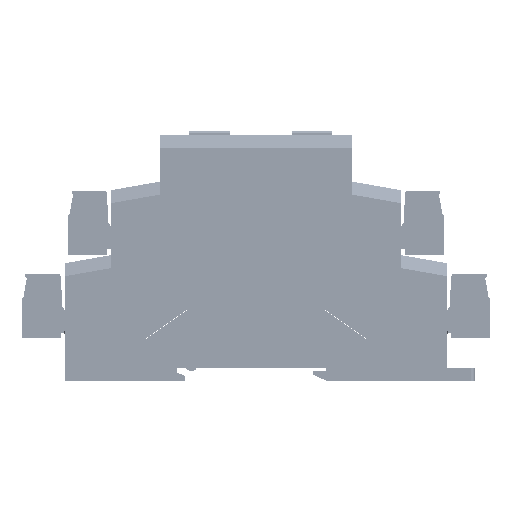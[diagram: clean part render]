
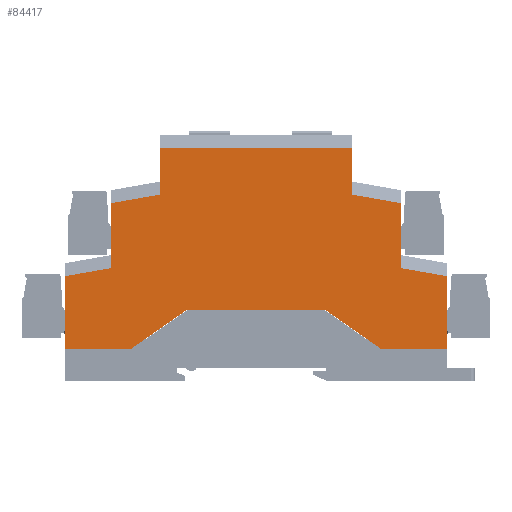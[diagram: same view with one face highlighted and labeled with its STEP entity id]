
A CAD part, left-side view. The second image highlights one B-rep face of the part: STEP entity #84417.
In plain terms, the highlighted planar face has unit normal (-1, 0, 0).
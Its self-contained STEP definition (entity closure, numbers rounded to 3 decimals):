
#867 = VERTEX_POINT ( 'NONE', #205247 ) ;
#5867 = VERTEX_POINT ( 'NONE', #202426 ) ;
#6200 = VECTOR ( 'NONE', #255929, 1000. ) ;
#6600 = LINE ( 'NONE', #42535, #129898 ) ;
#7434 = VECTOR ( 'NONE', #222202, 1000. ) ;
#8459 = ORIENTED_EDGE ( 'NONE', *, *, #105692, .F. ) ;
#9944 = DIRECTION ( 'NONE',  ( 0., 0., -1. ) ) ;
#10745 = EDGE_CURVE ( 'NONE', #127834, #14071, #117070, .T. ) ;
#13979 = VERTEX_POINT ( 'NONE', #227596 ) ;
#14071 = VERTEX_POINT ( 'NONE', #136743 ) ;
#15974 = DIRECTION ( 'NONE',  ( 0., 0.985, 0.174 ) ) ;
#16862 = CARTESIAN_POINT ( 'NONE',  ( 0., 10.85, 19.014 ) ) ;
#21180 = ORIENTED_EDGE ( 'NONE', *, *, #311036, .T. ) ;
#21822 = ORIENTED_EDGE ( 'NONE', *, *, #356415, .F. ) ;
#24146 = CARTESIAN_POINT ( 'NONE',  ( 0., 89.179, 17.192 ) ) ;
#27953 = CARTESIAN_POINT ( 'NONE',  ( 0., 0., 0. ) ) ;
#28605 = CARTESIAN_POINT ( 'NONE',  ( 0., 89.7, 0. ) ) ;
#36361 = LINE ( 'NONE', #180447, #334787 ) ;
#40754 = VECTOR ( 'NONE', #106786, 1000. ) ;
#42535 = CARTESIAN_POINT ( 'NONE',  ( 0., 11.371, 19.106 ) ) ;
#43926 = EDGE_CURVE ( 'NONE', #184956, #867, #196900, .T. ) ;
#49330 = VERTEX_POINT ( 'NONE', #28605 ) ;
#51432 = CARTESIAN_POINT ( 'NONE',  ( 0., 0., 20.147 ) ) ;
#56244 = LINE ( 'NONE', #70511, #318818 ) ;
#56449 = VERTEX_POINT ( 'NONE', #130371 ) ;
#56840 = CARTESIAN_POINT ( 'NONE',  ( 0., 74.243, 0. ) ) ;
#57742 = LINE ( 'NONE', #293169, #6200 ) ;
#61211 = LINE ( 'NONE', #27953, #318880 ) ;
#65774 = ORIENTED_EDGE ( 'NONE', *, *, #196801, .T. ) ;
#70511 = CARTESIAN_POINT ( 'NONE',  ( 0., 78.329, 34.318 ) ) ;
#73134 = EDGE_CURVE ( 'NONE', #426107, #5867, #404962, .T. ) ;
#84417 = ADVANCED_FACE ( 'NONE', ( #274160 ), #189088, .T. ) ;
#86960 = LINE ( 'NONE', #24146, #426550 ) ;
#88527 = DIRECTION ( 'NONE',  ( -1., 0., 0. ) ) ;
#96948 = VECTOR ( 'NONE', #347633, 1000. ) ;
#98147 = LINE ( 'NONE', #282134, #262875 ) ;
#100534 = LINE ( 'NONE', #296501, #357752 ) ;
#101676 = ORIENTED_EDGE ( 'NONE', *, *, #330104, .T. ) ;
#105692 = EDGE_CURVE ( 'NONE', #127834, #222991, #307709, .T. ) ;
#106786 = DIRECTION ( 'NONE',  ( 0., 0.819, 0.574 ) ) ;
#108831 = ORIENTED_EDGE ( 'NONE', *, *, #10745, .T. ) ;
#109628 = CARTESIAN_POINT ( 'NONE',  ( 0., 28.525, 9.15 ) ) ;
#112730 = VERTEX_POINT ( 'NONE', #325869 ) ;
#114282 = DIRECTION ( 'NONE',  ( 0., 1., 0. ) ) ;
#117070 = LINE ( 'NONE', #308019, #400374 ) ;
#117117 = EDGE_CURVE ( 'NONE', #344646, #419325, #128198, .T. ) ;
#118415 = ORIENTED_EDGE ( 'NONE', *, *, #43926, .F. ) ;
#119822 = CARTESIAN_POINT ( 'NONE',  ( 0., 15.457, 0. ) ) ;
#122136 = DIRECTION ( 'NONE',  ( 0., 0., -1. ) ) ;
#125438 = VERTEX_POINT ( 'NONE', #357227 ) ;
#127834 = VERTEX_POINT ( 'NONE', #354038 ) ;
#128198 = LINE ( 'NONE', #109628, #40754 ) ;
#129898 = VECTOR ( 'NONE', #373257, 1000. ) ;
#130371 = CARTESIAN_POINT ( 'NONE',  ( 0., 78.85, 19.014 ) ) ;
#132352 = DIRECTION ( 'NONE',  ( 0., 0.985, -0.174 ) ) ;
#136126 = EDGE_CURVE ( 'NONE', #125438, #49330, #36361, .T. ) ;
#136743 = CARTESIAN_POINT ( 'NONE',  ( 0., 22.35, 36.254 ) ) ;
#142310 = ORIENTED_EDGE ( 'NONE', *, *, #206053, .F. ) ;
#148001 = EDGE_CURVE ( 'NONE', #867, #344646, #61211, .T. ) ;
#180447 = CARTESIAN_POINT ( 'NONE',  ( 0., 74.243, 0. ) ) ;
#184956 = VERTEX_POINT ( 'NONE', #426686 ) ;
#189088 = PLANE ( 'NONE',  #309990 ) ;
#191120 = VERTEX_POINT ( 'NONE', #387326 ) ;
#191559 = ORIENTED_EDGE ( 'NONE', *, *, #73134, .F. ) ;
#193274 = DIRECTION ( 'NONE',  ( 0., 1., 0. ) ) ;
#196801 = EDGE_CURVE ( 'NONE', #426107, #112730, #56244, .T. ) ;
#196900 = LINE ( 'NONE', #51432, #336172 ) ;
#202426 = CARTESIAN_POINT ( 'NONE',  ( 0., 67.35, 47.1 ) ) ;
#205247 = CARTESIAN_POINT ( 'NONE',  ( 0., 0., 0. ) ) ;
#205333 = LINE ( 'NONE', #373710, #426620 ) ;
#206053 = EDGE_CURVE ( 'NONE', #382953, #14071, #205333, .T. ) ;
#207902 = LINE ( 'NONE', #56840, #7434 ) ;
#209811 = VECTOR ( 'NONE', #122136, 1000. ) ;
#214853 = ORIENTED_EDGE ( 'NONE', *, *, #117117, .F. ) ;
#221799 = DIRECTION ( 'NONE',  ( 0., 0., 1. ) ) ;
#222202 = DIRECTION ( 'NONE',  ( 0., 0.819, -0.574 ) ) ;
#222991 = VERTEX_POINT ( 'NONE', #16862 ) ;
#226343 = ORIENTED_EDGE ( 'NONE', *, *, #136126, .F. ) ;
#227596 = CARTESIAN_POINT ( 'NONE',  ( 0., 61.175, 9.15 ) ) ;
#228890 = CARTESIAN_POINT ( 'NONE',  ( 0., 22.35, 47.1 ) ) ;
#243420 = ORIENTED_EDGE ( 'NONE', *, *, #339889, .T. ) ;
#252443 = DIRECTION ( 'NONE',  ( 0., 0., 1. ) ) ;
#253296 = EDGE_CURVE ( 'NONE', #49330, #191120, #100534, .T. ) ;
#255929 = DIRECTION ( 'NONE',  ( 0., 1., 0. ) ) ;
#262875 = VECTOR ( 'NONE', #221799, 1000. ) ;
#274160 = FACE_OUTER_BOUND ( 'NONE', #354969, .T. ) ;
#282134 = CARTESIAN_POINT ( 'NONE',  ( 0., 78.85, 22.06 ) ) ;
#293169 = CARTESIAN_POINT ( 'NONE',  ( 0., 61.175, 9.15 ) ) ;
#296501 = CARTESIAN_POINT ( 'NONE',  ( 0., 89.7, 0. ) ) ;
#299157 = ORIENTED_EDGE ( 'NONE', *, *, #376039, .F. ) ;
#305945 = EDGE_CURVE ( 'NONE', #56449, #112730, #98147, .T. ) ;
#307709 = LINE ( 'NONE', #414266, #209811 ) ;
#308019 = CARTESIAN_POINT ( 'NONE',  ( 0., 22.871, 36.346 ) ) ;
#309990 = AXIS2_PLACEMENT_3D ( 'NONE', #386175, #88527, #252443 ) ;
#311036 = EDGE_CURVE ( 'NONE', #56449, #191120, #86960, .T. ) ;
#315212 = CARTESIAN_POINT ( 'NONE',  ( 0., 67.35, 36.254 ) ) ;
#318818 = VECTOR ( 'NONE', #132352, 1000. ) ;
#318880 = VECTOR ( 'NONE', #193274, 1000. ) ;
#325869 = CARTESIAN_POINT ( 'NONE',  ( 0., 78.85, 34.226 ) ) ;
#330104 = EDGE_CURVE ( 'NONE', #382953, #5867, #395339, .T. ) ;
#334787 = VECTOR ( 'NONE', #114282, 1000. ) ;
#336172 = VECTOR ( 'NONE', #382199, 1000. ) ;
#339889 = EDGE_CURVE ( 'NONE', #184956, #222991, #6600, .T. ) ;
#344450 = CARTESIAN_POINT ( 'NONE',  ( 0., 28.525, 9.15 ) ) ;
#344646 = VERTEX_POINT ( 'NONE', #119822 ) ;
#347440 = CARTESIAN_POINT ( 'NONE',  ( 0., 67.35, 39.3 ) ) ;
#347633 = DIRECTION ( 'NONE',  ( 0., 1., 0. ) ) ;
#348844 = DIRECTION ( 'NONE',  ( 0., 0., 1. ) ) ;
#354038 = CARTESIAN_POINT ( 'NONE',  ( 0., 10.85, 34.226 ) ) ;
#354969 = EDGE_LOOP ( 'NONE', ( #360809, #21180, #379817, #226343, #299157, #21822, #214853, #361447, #118415, #243420, #8459, #108831, #142310, #101676, #191559, #65774 ) ) ;
#356415 = EDGE_CURVE ( 'NONE', #419325, #13979, #57742, .T. ) ;
#357227 = CARTESIAN_POINT ( 'NONE',  ( 0., 74.243, 0. ) ) ;
#357752 = VECTOR ( 'NONE', #426042, 1000. ) ;
#360809 = ORIENTED_EDGE ( 'NONE', *, *, #305945, .F. ) ;
#361447 = ORIENTED_EDGE ( 'NONE', *, *, #148001, .F. ) ;
#363694 = VECTOR ( 'NONE', #348844, 1000. ) ;
#373257 = DIRECTION ( 'NONE',  ( 0., 0.985, 0.174 ) ) ;
#373710 = CARTESIAN_POINT ( 'NONE',  ( 0., 22.35, 50.1 ) ) ;
#376039 = EDGE_CURVE ( 'NONE', #13979, #125438, #207902, .T. ) ;
#379817 = ORIENTED_EDGE ( 'NONE', *, *, #253296, .F. ) ;
#382199 = DIRECTION ( 'NONE',  ( 0., 0., -1. ) ) ;
#382953 = VERTEX_POINT ( 'NONE', #228890 ) ;
#386175 = CARTESIAN_POINT ( 'NONE',  ( 0., 0., 0. ) ) ;
#387326 = CARTESIAN_POINT ( 'NONE',  ( 0., 89.7, 17.101 ) ) ;
#395339 = LINE ( 'NONE', #416613, #96948 ) ;
#400374 = VECTOR ( 'NONE', #15974, 1000. ) ;
#404962 = LINE ( 'NONE', #347440, #363694 ) ;
#414266 = CARTESIAN_POINT ( 'NONE',  ( 0., 10.85, 37.272 ) ) ;
#415431 = DIRECTION ( 'NONE',  ( 0., 0.985, -0.174 ) ) ;
#416613 = CARTESIAN_POINT ( 'NONE',  ( 0., 67.35, 47.1 ) ) ;
#419325 = VERTEX_POINT ( 'NONE', #344450 ) ;
#426042 = DIRECTION ( 'NONE',  ( 0., 0., 1. ) ) ;
#426107 = VERTEX_POINT ( 'NONE', #315212 ) ;
#426550 = VECTOR ( 'NONE', #415431, 1000. ) ;
#426620 = VECTOR ( 'NONE', #9944, 1000. ) ;
#426686 = CARTESIAN_POINT ( 'NONE',  ( 0., 0., 17.101 ) ) ;
